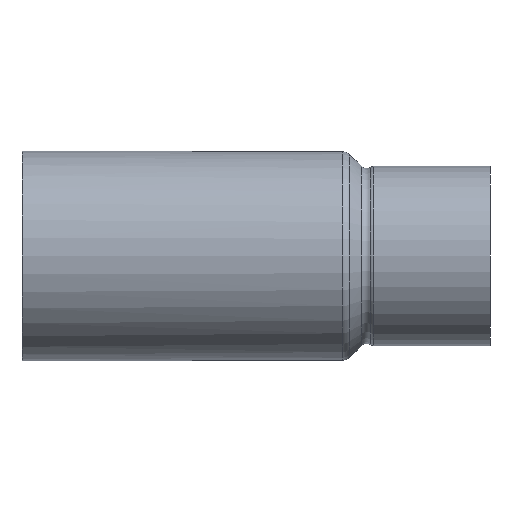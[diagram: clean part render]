
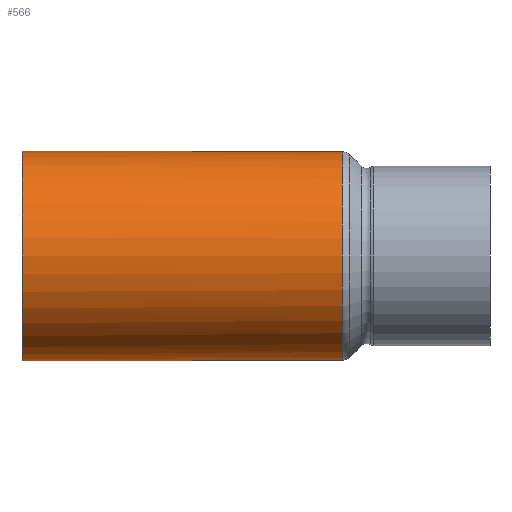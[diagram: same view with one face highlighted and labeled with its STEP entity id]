
A CAD part, front view. The second image highlights one B-rep face of the part: STEP entity #566.
In plain terms, the highlighted cylindrical face has radius 10.075 mm (diameter 20.15 mm), a full revolution.
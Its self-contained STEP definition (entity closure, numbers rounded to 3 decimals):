
#26=LINE('',#1415,#36);
#36=VECTOR('',#779,10.075);
#51=CYLINDRICAL_SURFACE('',#651,10.075);
#70=B_SPLINE_CURVE_WITH_KNOTS('',3,(#1229,#1230,#1231,#1232,#1233,#1234,
#1235,#1236,#1237,#1238,#1239,#1240,#1241,#1242,#1243,#1244,#1245,#1246,
#1247,#1248,#1249,#1250,#1251,#1252,#1253),.UNSPECIFIED.,.F.,.F.,(4,3,3,
3,3,3,3,3,4),(-3.374,-3.316,-3.061,-2.806,
-2.678,-2.551,-2.296,-2.041,
-1.99),.UNSPECIFIED.);
#71=B_SPLINE_CURVE_WITH_KNOTS('',3,(#1255,#1256,#1257,#1258,#1259,#1260,
#1261,#1262,#1263,#1264,#1265,#1266,#1267,#1268,#1269,#1270,#1271,#1272,
#1273),.UNSPECIFIED.,.F.,.F.,(4,3,3,3,3,3,4),(-1.99,-1.786,
-1.531,-1.339,-1.148,-0.765,
-0.688),.UNSPECIFIED.);
#72=B_SPLINE_CURVE_WITH_KNOTS('',3,(#1275,#1276,#1277,#1278,#1279,#1280,
#1281,#1282,#1283,#1284),.UNSPECIFIED.,.F.,.F.,(4,3,3,4),(-0.688,
-0.383,-0.191,0.),.UNSPECIFIED.);
#83=B_SPLINE_CURVE_WITH_KNOTS('',3,(#1375,#1376,#1377,#1378,#1379,#1380),
 .UNSPECIFIED.,.F.,.F.,(4,1,1,4),(-5.357,-5.166,-4.974,
-4.661),.UNSPECIFIED.);
#113=FACE_OUTER_BOUND('',#147,.T.);
#147=EDGE_LOOP('',(#456,#457,#458,#459,#460,#461,#462,#463,#464));
#183=CIRCLE('',#626,10.075);
#184=CIRCLE('',#627,10.075);
#201=CIRCLE('',#652,10.075);
#231=VERTEX_POINT('',#1033);
#234=VERTEX_POINT('',#1073);
#236=VERTEX_POINT('',#1091);
#237=VERTEX_POINT('',#1228);
#238=VERTEX_POINT('',#1254);
#239=VERTEX_POINT('',#1274);
#261=VERTEX_POINT('',#1414);
#300=EDGE_CURVE('',#231,#236,#183,.T.);
#301=EDGE_CURVE('',#236,#234,#184,.T.);
#304=EDGE_CURVE('',#234,#237,#70,.T.);
#305=EDGE_CURVE('',#237,#238,#71,.T.);
#306=EDGE_CURVE('',#238,#239,#72,.T.);
#318=EDGE_CURVE('',#239,#231,#83,.T.);
#335=EDGE_CURVE('',#236,#261,#26,.T.);
#336=EDGE_CURVE('',#261,#261,#201,.T.);
#456=ORIENTED_EDGE('',*,*,#300,.F.);
#457=ORIENTED_EDGE('',*,*,#318,.F.);
#458=ORIENTED_EDGE('',*,*,#306,.F.);
#459=ORIENTED_EDGE('',*,*,#305,.F.);
#460=ORIENTED_EDGE('',*,*,#304,.F.);
#461=ORIENTED_EDGE('',*,*,#301,.F.);
#462=ORIENTED_EDGE('',*,*,#335,.T.);
#463=ORIENTED_EDGE('',*,*,#336,.T.);
#464=ORIENTED_EDGE('',*,*,#335,.F.);
#566=ADVANCED_FACE('',(#113),#51,.T.);
#626=AXIS2_PLACEMENT_3D('',#1092,#724,#725);
#627=AXIS2_PLACEMENT_3D('',#1093,#726,#727);
#651=AXIS2_PLACEMENT_3D('',#1413,#777,#778);
#652=AXIS2_PLACEMENT_3D('',#1416,#780,#781);
#724=DIRECTION('center_axis',(1.,0.,0.));
#725=DIRECTION('ref_axis',(0.,-1.,0.));
#726=DIRECTION('center_axis',(1.,0.,0.));
#727=DIRECTION('ref_axis',(0.,-1.,0.));
#777=DIRECTION('center_axis',(1.,0.,0.));
#778=DIRECTION('ref_axis',(0.,1.,0.));
#779=DIRECTION('',(-1.,0.,0.));
#780=DIRECTION('center_axis',(1.,0.,0.));
#781=DIRECTION('ref_axis',(0.,1.,0.));
#1033=CARTESIAN_POINT('',(8.785,8.009,6.111));
#1073=CARTESIAN_POINT('',(8.785,8.01,-6.111));
#1091=CARTESIAN_POINT('',(8.786,-10.075,0.));
#1092=CARTESIAN_POINT('Origin',(8.786,0.,0.));
#1093=CARTESIAN_POINT('Origin',(8.786,0.,0.));
#1228=CARTESIAN_POINT('',(-8.712,7.969,-6.164));
#1229=CARTESIAN_POINT('Ctrl Pts',(8.785,8.01,-6.111));
#1230=CARTESIAN_POINT('Ctrl Pts',(8.601,7.907,-6.247));
#1231=CARTESIAN_POINT('Ctrl Pts',(8.411,7.802,-6.379));
#1232=CARTESIAN_POINT('Ctrl Pts',(8.217,7.695,-6.505));
#1233=CARTESIAN_POINT('Ctrl Pts',(7.364,7.229,-7.058));
#1234=CARTESIAN_POINT('Ctrl Pts',(6.423,6.741,-7.511));
#1235=CARTESIAN_POINT('Ctrl Pts',(5.382,6.283,-7.875));
#1236=CARTESIAN_POINT('Ctrl Pts',(4.34,5.824,-8.239));
#1237=CARTESIAN_POINT('Ctrl Pts',(3.199,5.395,-8.514));
#1238=CARTESIAN_POINT('Ctrl Pts',(1.942,5.154,-8.658));
#1239=CARTESIAN_POINT('Ctrl Pts',(1.314,5.033,-8.73));
#1240=CARTESIAN_POINT('Ctrl Pts',(0.656,4.96,-8.769));
#1241=CARTESIAN_POINT('Ctrl Pts',(-0.001,4.96,
-8.769));
#1242=CARTESIAN_POINT('Ctrl Pts',(-0.659,4.961,-8.769));
#1243=CARTESIAN_POINT('Ctrl Pts',(-1.317,5.034,-8.729));
#1244=CARTESIAN_POINT('Ctrl Pts',(-1.945,5.155,-8.657));
#1245=CARTESIAN_POINT('Ctrl Pts',(-3.202,5.396,-8.513));
#1246=CARTESIAN_POINT('Ctrl Pts',(-4.341,5.825,-8.242));
#1247=CARTESIAN_POINT('Ctrl Pts',(-5.381,6.282,-7.877));
#1248=CARTESIAN_POINT('Ctrl Pts',(-6.421,6.74,-7.513));
#1249=CARTESIAN_POINT('Ctrl Pts',(-7.363,7.228,-7.055));
#1250=CARTESIAN_POINT('Ctrl Pts',(-8.214,7.693,-6.504));
#1251=CARTESIAN_POINT('Ctrl Pts',(-8.384,7.786,-6.395));
#1252=CARTESIAN_POINT('Ctrl Pts',(-8.55,7.878,-6.281));
#1253=CARTESIAN_POINT('Ctrl Pts',(-8.712,7.969,-6.164));
#1254=CARTESIAN_POINT('',(-8.711,7.967,6.168));
#1255=CARTESIAN_POINT('Ctrl Pts',(-8.712,7.969,-6.164));
#1256=CARTESIAN_POINT('Ctrl Pts',(-9.362,8.333,-5.694));
#1257=CARTESIAN_POINT('Ctrl Pts',(-9.95,8.678,-5.163));
#1258=CARTESIAN_POINT('Ctrl Pts',(-10.454,8.979,-4.571));
#1259=CARTESIAN_POINT('Ctrl Pts',(-11.085,9.355,-3.83));
#1260=CARTESIAN_POINT('Ctrl Pts',(-11.587,9.664,-2.992));
#1261=CARTESIAN_POINT('Ctrl Pts',(-11.896,9.855,-2.094));
#1262=CARTESIAN_POINT('Ctrl Pts',(-12.127,9.998,-1.42));
#1263=CARTESIAN_POINT('Ctrl Pts',(-12.25,10.075,-0.713));
#1264=CARTESIAN_POINT('Ctrl Pts',(-12.25,10.075,-0.004));
#1265=CARTESIAN_POINT('Ctrl Pts',(-12.251,10.075,0.705));
#1266=CARTESIAN_POINT('Ctrl Pts',(-12.129,9.999,1.416));
#1267=CARTESIAN_POINT('Ctrl Pts',(-11.898,9.856,2.089));
#1268=CARTESIAN_POINT('Ctrl Pts',(-11.438,9.571,3.435));
#1269=CARTESIAN_POINT('Ctrl Pts',(-10.544,9.023,4.632));
#1270=CARTESIAN_POINT('Ctrl Pts',(-9.421,8.373,5.605));
#1271=CARTESIAN_POINT('Ctrl Pts',(-9.193,8.242,5.802));
#1272=CARTESIAN_POINT('Ctrl Pts',(-8.957,8.106,5.989));
#1273=CARTESIAN_POINT('Ctrl Pts',(-8.711,7.967,6.168));
#1274=CARTESIAN_POINT('',(0.,4.961,8.769));
#1275=CARTESIAN_POINT('Ctrl Pts',(-8.711,7.967,6.168));
#1276=CARTESIAN_POINT('Ctrl Pts',(-7.742,7.421,6.873));
#1277=CARTESIAN_POINT('Ctrl Pts',(-6.629,6.832,7.438));
#1278=CARTESIAN_POINT('Ctrl Pts',(-5.384,6.284,7.874));
#1279=CARTESIAN_POINT('Ctrl Pts',(-4.603,5.941,8.148));
#1280=CARTESIAN_POINT('Ctrl Pts',(-3.771,5.614,8.371));
#1281=CARTESIAN_POINT('Ctrl Pts',(-2.866,5.369,8.526));
#1282=CARTESIAN_POINT('Ctrl Pts',(-1.961,5.124,8.681));
#1283=CARTESIAN_POINT('Ctrl Pts',(-0.984,4.961,8.769));
#1284=CARTESIAN_POINT('Ctrl Pts',(0.,4.961,
8.769));
#1375=CARTESIAN_POINT('Ctrl Pts',(0.,4.961,
8.769));
#1376=CARTESIAN_POINT('Ctrl Pts',(0.984,4.961,8.769));
#1377=CARTESIAN_POINT('Ctrl Pts',(2.935,5.286,8.592));
#1378=CARTESIAN_POINT('Ctrl Pts',(5.964,6.476,7.787));
#1379=CARTESIAN_POINT('Ctrl Pts',(7.798,7.451,6.841));
#1380=CARTESIAN_POINT('Ctrl Pts',(8.785,8.009,6.111));
#1413=CARTESIAN_POINT('Origin',(0.5,0.,0.));
#1414=CARTESIAN_POINT('',(-22.,-10.075,0.));
#1415=CARTESIAN_POINT('',(0.5,-10.075,0.));
#1416=CARTESIAN_POINT('Origin',(-22.,0.,0.));
